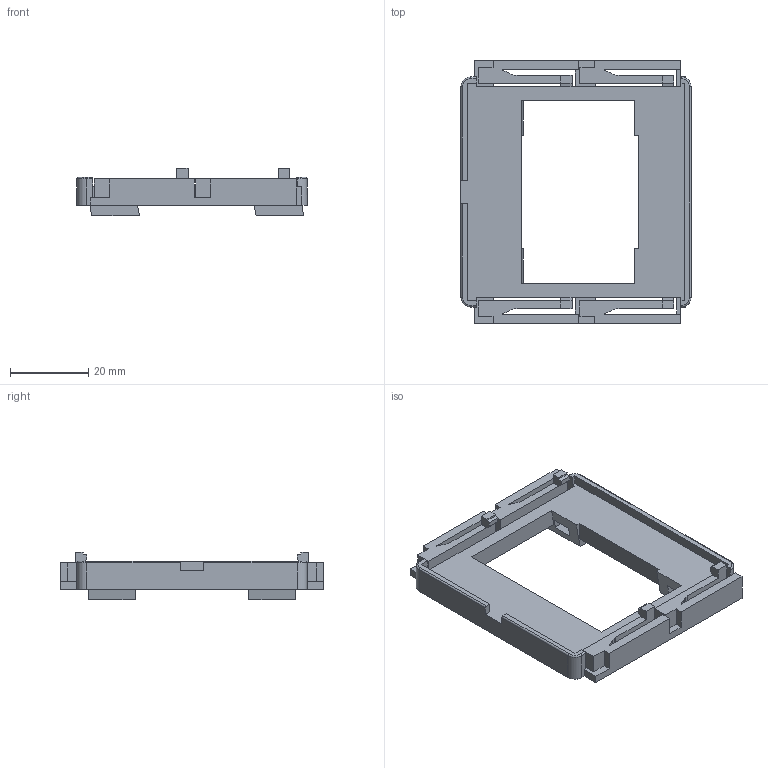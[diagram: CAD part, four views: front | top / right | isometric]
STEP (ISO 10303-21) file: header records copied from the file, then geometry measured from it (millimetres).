
FILE_DESCRIPTION(('Open CASCADE Model'),'2;1');
FILE_NAME('Open CASCADE Shape Model','2026-11-15T18:32:28',('Author'),( 'Open CASCADE'),'Open CASCADE STEP processor 7.9','Open CASCADE 7.9' ,'Unknown');
FILE_SCHEMA(('AUTOMOTIVE_DESIGN { 1 0 10303 214 1 1 1 1 }'));
Length unit declared in the file: millimetre
Products named in the file (1): Open CASCADE STEP translator 7.9 4
Bounding box: 58.8 x 67.2 x 12.05 mm (x, y, z)
Volume: 12404.9 mm3; surface area: 11057.9 mm2
Topology: 1 solids, 1 shells, 205 faces, 605 edges, 400 vertices
Faces by surface type: plane 190, cylinder 11, torus 4
Entity records: 14642 total; most frequent: CARTESIAN_POINT 2469, DIRECTION 2247, LINE 1771, VECTOR 1771, ORIENTED_EDGE 1210, PCURVE 1210, DEFINITIONAL_REPRESENTATION 1210, EDGE_CURVE 605
